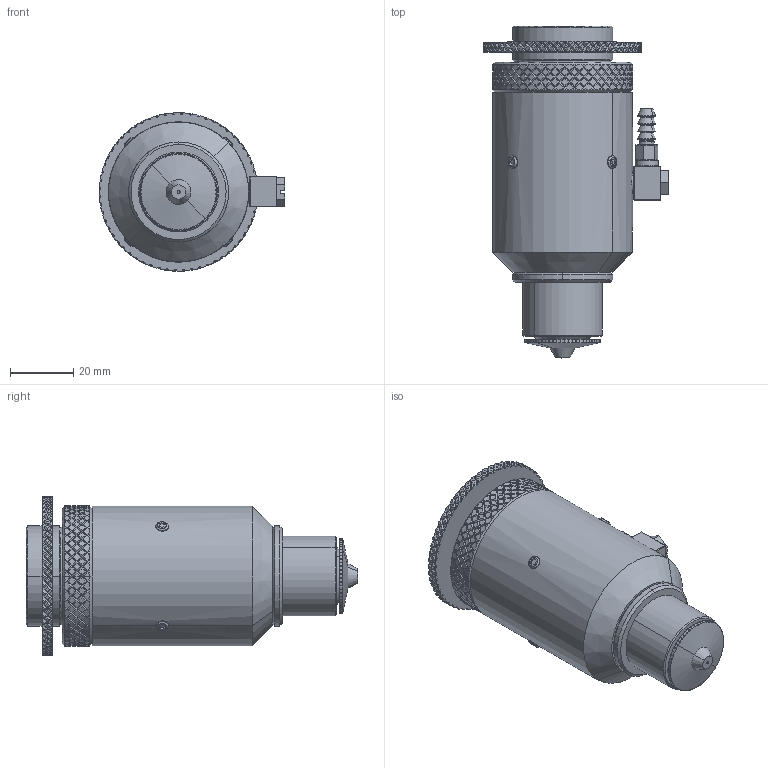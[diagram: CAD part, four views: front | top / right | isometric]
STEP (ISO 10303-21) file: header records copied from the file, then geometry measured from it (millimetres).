
FILE_DESCRIPTION (( 'STEP AP214' ), '1' );
FILE_NAME ('PHA-25-25-064-LB.STEP', '2016-10-06T15:47:14', ( '' ), ( '' ), 'SwSTEP 2.0', 'SolidWorks 2016', '' );
FILE_SCHEMA (( 'AUTOMOTIVE_DESIGN' ));
Length unit declared in the file: inch
Products named in the file (1): PHA-25-25-064-LB
Bounding box: 58.8 x 105.28 x 50.29 mm (x, y, z)
Volume: 113772.7 mm3; surface area: 21558.3 mm2
Topology: 1 solids, 1 shells, 3040 faces, 6900 edges, 3868 vertices
Faces by surface type: plane 2291, cylinder 652, cone 40, torus 37, sphere 20
Entity records: 81916 total; most frequent: CARTESIAN_POINT 21228, ORIENTED_EDGE 13760, DIRECTION 11300, EDGE_CURVE 6880, VERTEX_POINT 3868, VECTOR 3844, LINE 3844, AXIS2_PLACEMENT_3D 3728
